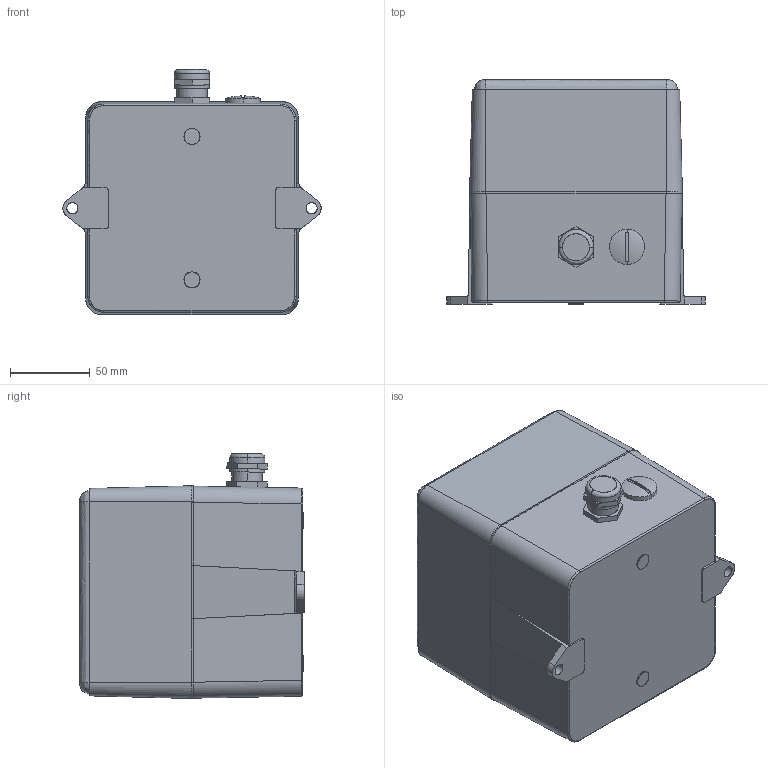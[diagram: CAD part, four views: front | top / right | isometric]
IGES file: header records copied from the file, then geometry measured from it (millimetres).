
Start section: SolidWorks IGES file using analytic representation for surfaces
Global section: file name: C:\PDMWTemp\DS5  DS10.IGS; native system: SolidWorks 2009; preprocessor: SolidWorks 2009; author: MMark; date: 091027.142327; units: millimetre
Bounding box: 161.93 x 140.8 x 153.78 mm (x, y, z)
Surface area: 139627.9 mm2 (no closed solid volume)
Topology: 0 solids, 0 shells, 208 faces, 2332 edges, 2332 vertices
Faces by surface type: bspline 124, revolution 84
